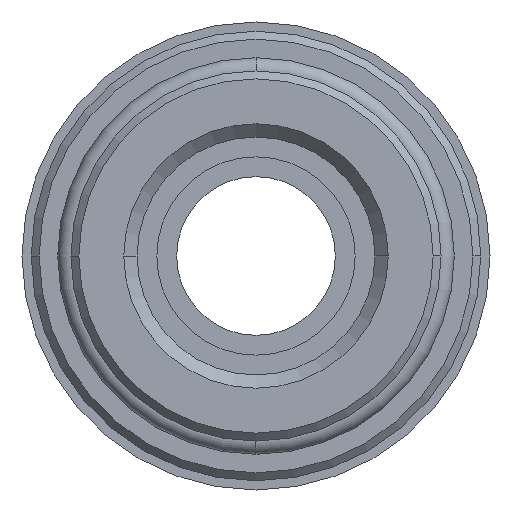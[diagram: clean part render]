
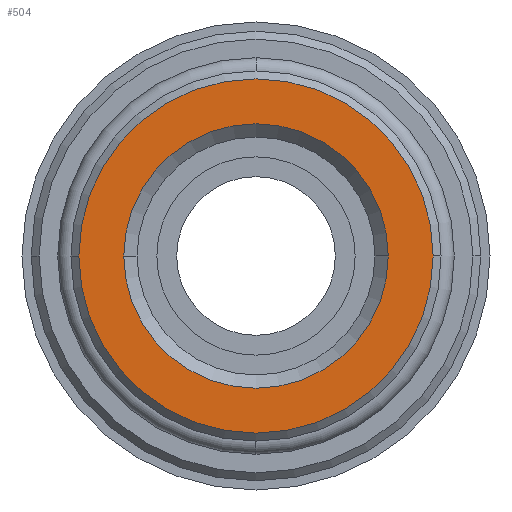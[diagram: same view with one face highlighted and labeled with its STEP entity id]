
A CAD part, left-side view. The second image highlights one B-rep face of the part: STEP entity #504.
In plain terms, the highlighted planar face has unit normal (-1, 0, 0).
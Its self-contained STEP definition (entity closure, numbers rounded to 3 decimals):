
#330 = VERTEX_POINT( '', #832 );
#340 = EDGE_CURVE( '', #416, #330, #843, .T. );
#416 = VERTEX_POINT( '', #925 );
#496 = EDGE_CURVE( '', #660, #690, #1021, .T. );
#504 = ADVANCED_FACE( '', ( #1030, #1031 ), #1032, .T. );
#660 = VERTEX_POINT( '', #1206 );
#676 = EDGE_CURVE( '', #330, #416, #1223, .T. );
#688 = EDGE_CURVE( '', #690, #660, #1236, .T. );
#690 = VERTEX_POINT( '', #1238 );
#832 = CARTESIAN_POINT( '', ( -30., -5., 0. ) );
#843 = CIRCLE( '', #1406, 5. );
#925 = CARTESIAN_POINT( '', ( -30., 5., 0. ) );
#1021 = CIRCLE( '', #1630, 6.7 );
#1030 = FACE_BOUND( '', #1641, .T. );
#1031 = FACE_OUTER_BOUND( '', #1642, .T. );
#1032 = PLANE( '', #1643 );
#1206 = CARTESIAN_POINT( '', ( -30., 6.7, 0. ) );
#1223 = CIRCLE( '', #1886, 5. );
#1236 = CIRCLE( '', #1906, 6.7 );
#1238 = CARTESIAN_POINT( '', ( -30., -6.7, 0. ) );
#1406 = AXIS2_PLACEMENT_3D( '', #2094, #2095, #2096 );
#1630 = AXIS2_PLACEMENT_3D( '', #2344, #2345, #2346 );
#1641 = EDGE_LOOP( '', ( #2358, #2359 ) );
#1642 = EDGE_LOOP( '', ( #2360, #2361 ) );
#1643 = AXIS2_PLACEMENT_3D( '', #2362, #2363, #2364 );
#1886 = AXIS2_PLACEMENT_3D( '', #2601, #2602, #2603 );
#1906 = AXIS2_PLACEMENT_3D( '', #2620, #2621, #2622 );
#2094 = CARTESIAN_POINT( '', ( -30., 0., 0. ) );
#2095 = DIRECTION( '', ( -1., 0., 0. ) );
#2096 = DIRECTION( '', ( 0., 1., 0. ) );
#2344 = CARTESIAN_POINT( '', ( -30., 0., 0. ) );
#2345 = DIRECTION( '', ( -1., 0., 0. ) );
#2346 = DIRECTION( '', ( 0., 1., 0. ) );
#2358 = ORIENTED_EDGE( '', *, *, #340, .F. );
#2359 = ORIENTED_EDGE( '', *, *, #676, .F. );
#2360 = ORIENTED_EDGE( '', *, *, #496, .T. );
#2361 = ORIENTED_EDGE( '', *, *, #688, .T. );
#2362 = CARTESIAN_POINT( '', ( -30., 5.85, 0. ) );
#2363 = DIRECTION( '', ( -1., 0., 0. ) );
#2364 = DIRECTION( '', ( 0., 1., 0. ) );
#2601 = CARTESIAN_POINT( '', ( -30., 0., 0. ) );
#2602 = DIRECTION( '', ( -1., 0., 0. ) );
#2603 = DIRECTION( '', ( 0., 1., 0. ) );
#2620 = CARTESIAN_POINT( '', ( -30., 0., 0. ) );
#2621 = DIRECTION( '', ( -1., 0., 0. ) );
#2622 = DIRECTION( '', ( 0., 1., 0. ) );
